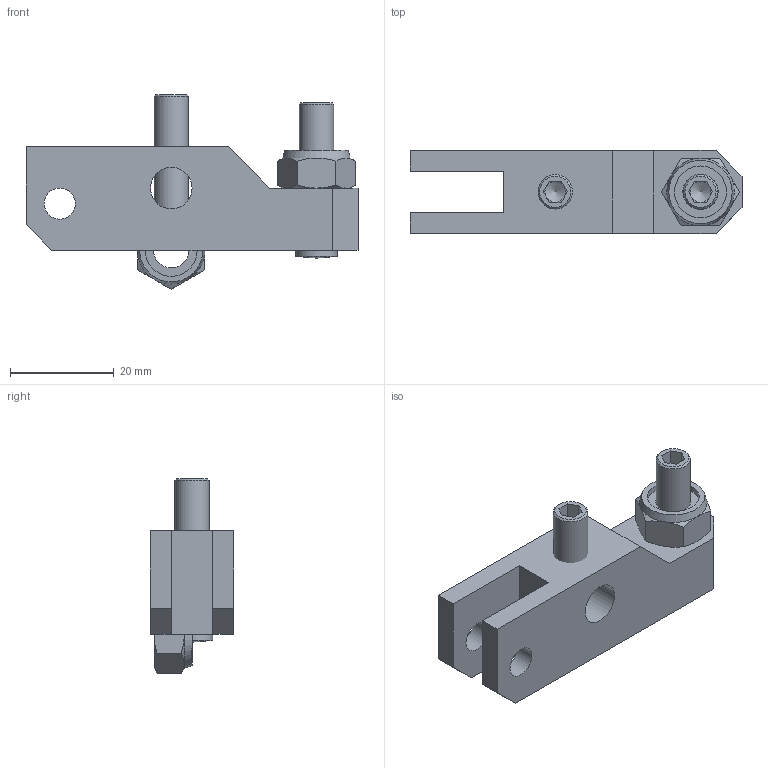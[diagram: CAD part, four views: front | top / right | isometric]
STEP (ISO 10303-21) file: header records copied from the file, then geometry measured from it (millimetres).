
FILE_DESCRIPTION( ( '' ), '1' );
FILE_NAME( 'W:/Catalogue/JL5H/JL5H34_ClampArm/JL5H34_ClampArm.stp', '2008-05-26T01:37:19', ( '機械事業部産業機器グループ' ), ( '豊和工業株式会社' ), 'XStep 1.0', ' ', ' ' );
FILE_SCHEMA( ( 'CONFIG_CONTROL_DESIGN' ) );
Length unit declared in the file: millimetre
Products named in the file (4): Assem1; 1; 2; 3
Bounding box: 64 x 16 x 37.5 mm (x, y, z)
Volume: 29416.8 mm3; surface area: 14220.3 mm2
Topology: 6 solids, 6 shells, 144 faces, 348 edges, 220 vertices
Faces by surface type: plane 80, cylinder 32, cone 30, sphere 2
Full cylindrical faces by diameter (mm): 4 x2, 6 x4, 6.647 x2, 6.8 x4, 8 x4, 8.5 x2, 10 x2
Entity records: 2248 total; most frequent: CARTESIAN_POINT 469, DIRECTION 332, ORIENTED_EDGE 306, EDGE_CURVE 153, AXIS2_PLACEMENT_3D 127, VERTEX_POINT 104, EDGE_LOOP 98, FACE_OUTER_BOUND 82
